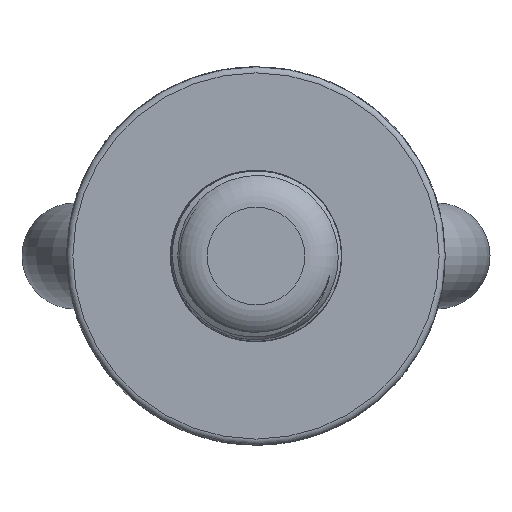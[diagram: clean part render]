
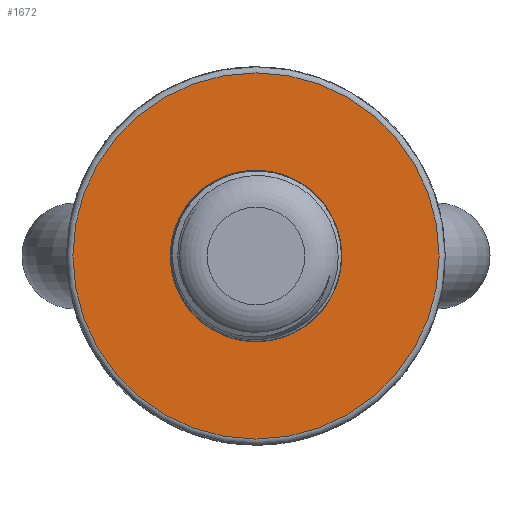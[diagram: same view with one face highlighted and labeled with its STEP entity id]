
A CAD part, front view. The second image highlights one B-rep face of the part: STEP entity #1672.
In plain terms, the highlighted planar face has unit normal (0, -1, 0).
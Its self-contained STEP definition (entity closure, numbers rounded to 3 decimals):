
#223=PLANE('',#5253);
#1672=ADVANCED_FACE('',(#1918,#1919),#223,.F.);
#1918=FACE_BOUND('',#2089,.T.);
#1919=FACE_BOUND('',#2090,.T.);
#2089=EDGE_LOOP('',(#2972));
#2090=EDGE_LOOP('',(#2973));
#2972=ORIENTED_EDGE('',*,*,#4615,.F.);
#2973=ORIENTED_EDGE('',*,*,#4614,.T.);
#4035=VERTEX_POINT('',#9926);
#4036=VERTEX_POINT('',#9929);
#4614=EDGE_CURVE('',#4035,#4035,#5028,.T.);
#4615=EDGE_CURVE('',#4036,#4036,#5029,.T.);
#5028=CIRCLE('',#5250,45.);
#5029=CIRCLE('',#5252,21.1);
#5250=AXIS2_PLACEMENT_3D('',#9925,#5896,#5897);
#5252=AXIS2_PLACEMENT_3D('',#9928,#5900,#5901);
#5253=AXIS2_PLACEMENT_3D('',#9930,#5902,#5903);
#5896=DIRECTION('',(0.,-1.,0.));
#5897=DIRECTION('',(1.,0.,0.));
#5900=DIRECTION('',(0.,-1.,0.));
#5901=DIRECTION('',(1.,0.,0.));
#5902=DIRECTION('',(0.,1.,0.));
#5903=DIRECTION('',(-1.,0.,0.));
#9925=CARTESIAN_POINT('',(0.,-11.1,0.));
#9926=CARTESIAN_POINT('',(45.,-11.1,0.));
#9928=CARTESIAN_POINT('',(0.,-11.1,0.));
#9929=CARTESIAN_POINT('',(21.1,-11.1,0.));
#9930=CARTESIAN_POINT('',(45.,-11.1,0.));
